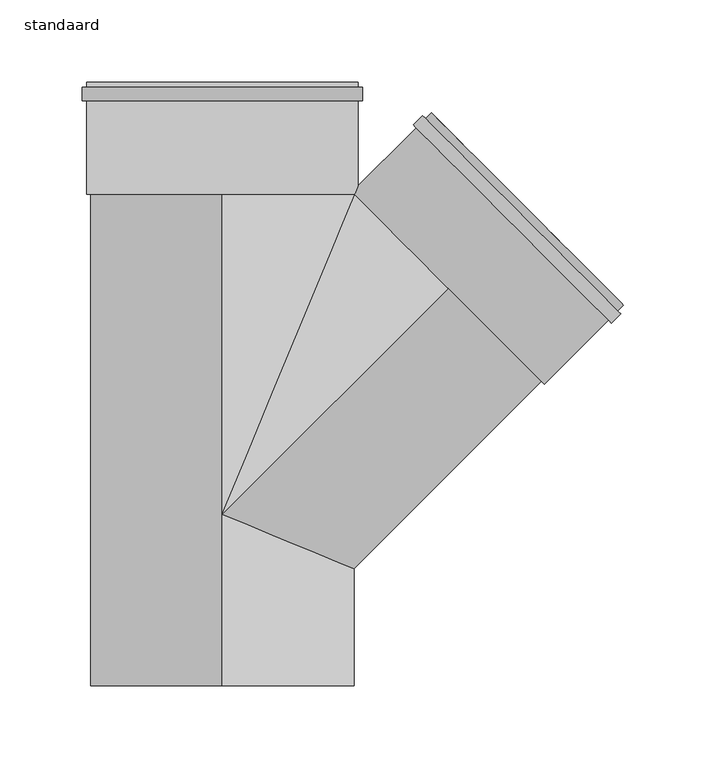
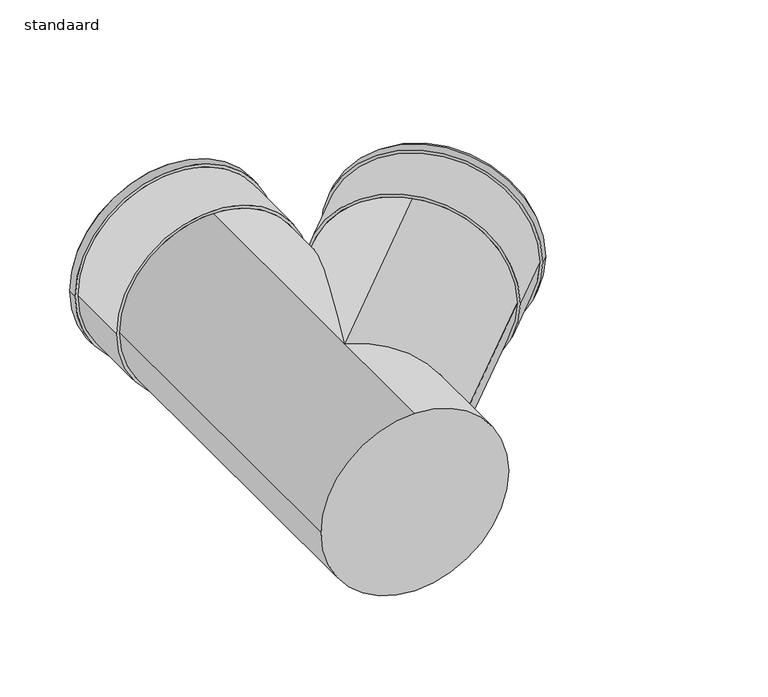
"""IFC4 building model written with IfcOpenShell, lengths in millimetres: pipe fitting geometry, 400_52_Dyka_PP_DykaStil_T-stuk_MMS : standaard."""

from ifc_helpers import new_model, si_unit, point, frame, origin, origin_2d, place, context, project, spatial, polyline, circle_curve, ellipse_curve, trimmed, segment, composite_curve, outline, extrude, source, transform, mapped, element, save
from ifc_brep_helpers import plane_surface, cylinder_surface, revolved_surface, advanced_brep


def standaard_0ab59dc6(model_context):
    return source(origin(), model_context, "Body", "SolidModel", [
        advanced_brep(
        [(-85.0, 259.0, 0.0), (85.0, 259.0, 0.0), (82.5, 259.0, 0.0), (-82.5, 259.0, 0.0), (-85.0, 251.0, 0.0), (85.0, 251.0, 0.0), (-82.5, 251.0, 0.0), (82.5, 251.0, 0.0), (82.5, 194.0, 0.0), (-82.5, 194.0, 0.0), (80.0, 194.0, 0.0), (-80.0, 194.0, 0.0), (82.5, 262.0, 0.0), (-82.5, 262.0, 0.0), (80.0, 262.0, 0.0), (-80.0, 262.0, 0.0)],
        [
            (0, 1, circle_curve(frame((0.0, 259.0, 0.0), z_axis=(0.0, 1.0, 0.0), x_axis=(1.0, 0.0, 0.0)), 85.0)),
            (1, 0, circle_curve(frame((0.0, 259.0, 0.0), z_axis=(0.0, 1.0, 0.0), x_axis=(1.0, 0.0, 0.0)), 85.0)),
            (2, 3, circle_curve(frame((0.0, 259.0, 0.0), z_axis=(0.0, -1.0, 0.0), x_axis=(-1.0, 0.0, 0.0)), 82.5)),
            (3, 2, circle_curve(frame((0.0, 259.0, 0.0), z_axis=(0.0, -1.0, 0.0), x_axis=(-1.0, 0.0, 0.0)), 82.5)),
            (4, 5, circle_curve(frame((0.0, 251.0, 0.0), z_axis=(0.0, -1.0, 0.0), x_axis=(1.0, 0.0, 0.0)), 85.0)),
            (5, 4, circle_curve(frame((0.0, 251.0, 0.0), z_axis=(0.0, -1.0, 0.0), x_axis=(1.0, 0.0, 0.0)), 85.0)),
            (6, 7, circle_curve(frame((0.0, 251.0, 0.0), z_axis=(0.0, 1.0, 0.0), x_axis=(-1.0, 0.0, 0.0)), 82.5)),
            (7, 6, circle_curve(frame((0.0, 251.0, 0.0), z_axis=(0.0, 1.0, 0.0), x_axis=(-1.0, 0.0, 0.0)), 82.5)),
            (0, 4),
            (5, 1),
            (8, 9, circle_curve(frame((0.0, 194.0, 0.0), z_axis=(0.0, -1.0, 0.0), x_axis=(-1.0, 0.0, 0.0)), 82.5)),
            (9, 8, circle_curve(frame((0.0, 194.0, 0.0), z_axis=(0.0, -1.0, 0.0), x_axis=(-1.0, 0.0, 0.0)), 82.5)),
            (10, 11, circle_curve(frame((0.0, 194.0, 0.0), z_axis=(0.0, 1.0, 0.0), x_axis=(-1.0, 0.0, 0.0)), 80.0)),
            (11, 10, circle_curve(frame((0.0, 194.0, 0.0), z_axis=(0.0, 1.0, 0.0), x_axis=(-1.0, 0.0, 0.0)), 80.0)),
            (12, 13, circle_curve(frame((0.0, 262.0, 0.0), z_axis=(0.0, 1.0, 0.0), x_axis=(-1.0, 0.0, 0.0)), 82.5)),
            (13, 12, circle_curve(frame((0.0, 262.0, 0.0), z_axis=(0.0, 1.0, 0.0), x_axis=(-1.0, 0.0, 0.0)), 82.5)),
            (14, 15, circle_curve(frame((0.0, 262.0, 0.0), z_axis=(0.0, -1.0, 0.0), x_axis=(-1.0, 0.0, 0.0)), 80.0)),
            (15, 14, circle_curve(frame((0.0, 262.0, 0.0), z_axis=(0.0, -1.0, 0.0), x_axis=(-1.0, 0.0, 0.0)), 80.0)),
            (8, 7),
            (6, 9),
            (13, 3),
            (2, 12),
            (10, 14),
            (15, 11),
        ],
        [
            plane_surface(frame((0.0, 259.0, 0.0), z_axis=(0.0, 1.0, 0.0), x_axis=(0.0, 0.0, 1.0))),
            plane_surface(frame((0.0, 251.0, 0.0), z_axis=(0.0, -1.0, 0.0), x_axis=(0.0, 0.0, 1.0))),
            cylinder_surface(frame((0.0, 259.0, 0.0), z_axis=(0.0, 1.0, 0.0), x_axis=(1.0, 0.0, 0.0)), 85.0),
            plane_surface(frame((0.0, 194.0, 0.0), z_axis=(0.0, -1.0, 0.0), x_axis=(0.0, 0.0, 1.0))),
            plane_surface(frame((0.0, 262.0, 0.0), z_axis=(0.0, 1.0, 0.0), x_axis=(0.0, 0.0, 1.0))),
            cylinder_surface(frame((0.0, 194.0, 0.0), z_axis=(0.0, -1.0, 0.0), x_axis=(-1.0, 0.0, 0.0)), 82.5),
            revolved_surface(polyline([(-80.0, 262.0, 0.0), (-80.0, 194.0, 0.0)]), (0.0, 194.0, 0.0), (0.0, 1.0, 0.0)),
        ],
        [
            (0, [[1, 2], [3, 4]]),
            (1, [[5, 6], [7, 8]]),
            (2, [[-1, 9, -6, 10]]),
            (2, [[-2, -10, -5, -9]]),
            (3, [[11, 12], [13, 14]]),
            (4, [[15, 16], [17, 18]]),
            (5, [[-11, 19, -7, 20]]),
            (5, [[-16, 21, -3, 22]]),
            (5, [[-12, -20, -8, -19]]),
            (5, [[-15, -22, -4, -21]]),
            (6, [[-13, 23, -18, 24]]),
            (6, [[-14, -24, -17, -23]]),
        ],
    ),
        advanced_brep(
        [(121.6223664, 241.8305192, 0.0), (241.8305192, 121.6223664, 0.0), (240.0627522, 123.3901333, 0.0), (123.3901333, 240.0627522, 0.0), (115.9772398, 236.1853926, 0.0), (236.1853926, 115.9772398, 0.0), (117.7450068, 234.4176257, 0.0), (234.4176257, 117.7450068, 0.0), (195.515025, 78.8424061, 0.0), (78.8424061, 195.515025, 0.0), (193.747258, 80.6101731, 0.0), (80.6101731, 193.747258, 0.0), (243.5982861, 126.9256672, 0.0), (126.9256672, 243.5982861, 0.0), (241.8305192, 128.6934342, 0.0), (128.6934342, 241.8305192, 0.0)],
        [
            (0, 1, circle_curve(frame((181.7264428, 181.7264428, 0.0), z_axis=(0.7071067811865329, 0.7071067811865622, 0.0), x_axis=(0.7071067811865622, -0.7071067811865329, 0.0)), 85.0)),
            (1, 0, circle_curve(frame((181.7264428, 181.7264428, 0.0), z_axis=(0.7071067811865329, 0.7071067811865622, 0.0), x_axis=(0.7071067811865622, -0.7071067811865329, 0.0)), 85.0)),
            (2, 3, circle_curve(frame((181.7264428, 181.7264428, 0.0), z_axis=(-0.707106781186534, -0.7071067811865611, 0.0), x_axis=(-0.7071067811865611, 0.707106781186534, 0.0)), 82.5)),
            (3, 2, circle_curve(frame((181.7264428, 181.7264428, 0.0), z_axis=(-0.707106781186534, -0.7071067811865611, 0.0), x_axis=(-0.7071067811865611, 0.707106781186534, 0.0)), 82.5)),
            (4, 5, circle_curve(frame((176.0813162, 176.0813162, 0.0), z_axis=(-0.7071067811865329, -0.7071067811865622, 0.0), x_axis=(0.7071067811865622, -0.7071067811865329, 0.0)), 85.0)),
            (5, 4, circle_curve(frame((176.0813162, 176.0813162, 0.0), z_axis=(-0.7071067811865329, -0.7071067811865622, 0.0), x_axis=(0.7071067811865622, -0.7071067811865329, 0.0)), 85.0)),
            (6, 7, circle_curve(frame((176.0813162, 176.0813162, 0.0), z_axis=(0.707106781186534, 0.7071067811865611, 0.0), x_axis=(-0.7071067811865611, 0.707106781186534, 0.0)), 82.5)),
            (7, 6, circle_curve(frame((176.0813162, 176.0813162, 0.0), z_axis=(0.707106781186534, 0.7071067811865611, 0.0), x_axis=(-0.7071067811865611, 0.707106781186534, 0.0)), 82.5)),
            (0, 4),
            (5, 1),
            (8, 9, circle_curve(frame((137.1787156, 137.1787156, 0.0), z_axis=(-0.707106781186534, -0.7071067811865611, 0.0), x_axis=(-0.7071067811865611, 0.707106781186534, 0.0)), 82.5)),
            (9, 8, circle_curve(frame((137.1787156, 137.1787156, 0.0), z_axis=(-0.707106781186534, -0.7071067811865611, 0.0), x_axis=(-0.7071067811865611, 0.707106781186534, 0.0)), 82.5)),
            (10, 11, circle_curve(frame((137.1787156, 137.1787156, 0.0), z_axis=(0.707106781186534, 0.7071067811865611, 0.0), x_axis=(-0.7071067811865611, 0.707106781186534, 0.0)), 80.0)),
            (11, 10, circle_curve(frame((137.1787156, 137.1787156, 0.0), z_axis=(0.707106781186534, 0.7071067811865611, 0.0), x_axis=(-0.7071067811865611, 0.707106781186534, 0.0)), 80.0)),
            (12, 13, circle_curve(frame((185.2619767, 185.2619767, 0.0), z_axis=(0.707106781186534, 0.7071067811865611, 0.0), x_axis=(-0.7071067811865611, 0.707106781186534, 0.0)), 82.5)),
            (13, 12, circle_curve(frame((185.2619767, 185.2619767, 0.0), z_axis=(0.707106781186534, 0.7071067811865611, 0.0), x_axis=(-0.7071067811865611, 0.707106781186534, 0.0)), 82.5)),
            (14, 15, circle_curve(frame((185.2619767, 185.2619767, 0.0), z_axis=(-0.707106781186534, -0.7071067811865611, 0.0), x_axis=(-0.7071067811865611, 0.707106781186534, 0.0)), 80.0)),
            (15, 14, circle_curve(frame((185.2619767, 185.2619767, 0.0), z_axis=(-0.707106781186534, -0.7071067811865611, 0.0), x_axis=(-0.7071067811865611, 0.707106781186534, 0.0)), 80.0)),
            (10, 14),
            (15, 11),
            (8, 7),
            (6, 9),
            (13, 3),
            (2, 12),
        ],
        [
            plane_surface(frame((181.7264428, 181.7264428, 0.0), z_axis=(0.7071067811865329, 0.7071067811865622, 0.0), x_axis=(0.0, 0.0, 1.0))),
            plane_surface(frame((176.0813162, 176.0813162, 0.0), z_axis=(-0.7071067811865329, -0.7071067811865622, 0.0), x_axis=(0.0, 0.0, 1.0))),
            cylinder_surface(frame((181.7264428, 181.7264428, 0.0), z_axis=(0.7071067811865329, 0.7071067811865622, 0.0), x_axis=(0.7071067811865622, -0.7071067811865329, 0.0)), 85.0),
            plane_surface(frame((137.1787156, 137.1787156, 0.0), z_axis=(-0.7071067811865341, -0.707106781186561, 0.0), x_axis=(0.0, 0.0, 1.0))),
            plane_surface(frame((185.2619767, 185.2619767, 0.0), z_axis=(0.7071067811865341, 0.707106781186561, 0.0), x_axis=(0.0, 0.0, 1.0))),
            revolved_surface(polyline([(128.69343420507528, 241.83051919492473, 0.0), (80.61017305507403, 193.74725804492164, 0.0)]), (137.1787156, 137.1787156, 0.0), (0.707106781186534, 0.7071067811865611, 0.0)),
            cylinder_surface(frame((137.1787156, 137.1787156, 0.0), z_axis=(-0.707106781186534, -0.7071067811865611, 0.0), x_axis=(-0.7071067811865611, 0.707106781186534, 0.0)), 82.5),
        ],
        [
            (0, [[1, 2], [3, 4]]),
            (1, [[5, 6], [7, 8]]),
            (2, [[-1, 9, -6, 10]]),
            (2, [[-2, -10, -5, -9]]),
            (3, [[11, 12], [13, 14]]),
            (4, [[15, 16], [17, 18]]),
            (5, [[-13, 19, -18, 20]]),
            (5, [[-14, -20, -17, -19]]),
            (6, [[-11, 21, -7, 22]]),
            (6, [[-16, 23, -3, 24]]),
            (6, [[-12, -22, -8, -21]]),
            (6, [[-15, -24, -4, -23]]),
        ],
    ),
        advanced_brep(
        [(80.0, 193.137085, 0.0), (80.0, -33.137085, 0.0), (0.0, 0.0, 80.0), (0.0, 0.0, -80.0), (137.1787156, 137.1787156, 80.0), (193.747258, 80.6101731, 0.0), (137.1787156, 137.1787156, -80.0), (80.6101731, 193.747258, 0.0)],
        [
            (0, 1),
            (1, 2, ellipse_curve(frame((0.0, 0.0, 0.0), z_axis=(-0.38268343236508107, -0.9238795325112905, 0.0), x_axis=(-0.9238795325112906, 0.3826834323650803, 0.0)), 86.591376, 80.0)),
            (2, 0, ellipse_curve(frame((0.0, 0.0, 0.0), z_axis=(-0.9238795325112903, 0.3826834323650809, 0.0), x_axis=(0.3826834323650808, 0.9238795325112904, 0.0)), 209.0500744, 80.0)),
            (0, 3, ellipse_curve(frame((0.0, 0.0, 0.0), z_axis=(-0.9238795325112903, 0.3826834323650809, 0.0), x_axis=(0.3826834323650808, 0.9238795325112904, 0.0)), 209.0500744, 80.0)),
            (3, 1, ellipse_curve(frame((0.0, 0.0, 0.0), z_axis=(-0.38268343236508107, -0.9238795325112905, 0.0), x_axis=(-0.9238795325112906, 0.3826834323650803, 0.0)), 86.591376, 80.0)),
            (4, 5, circle_curve(frame((137.1787156, 137.1787156, 0.0), z_axis=(0.7071067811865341, 0.707106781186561, 0.0), x_axis=(-0.707106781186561, 0.7071067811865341, 0.0)), 80.0)),
            (5, 6, circle_curve(frame((137.1787156, 137.1787156, 0.0), z_axis=(0.7071067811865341, 0.707106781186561, 0.0), x_axis=(-0.707106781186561, 0.7071067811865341, 0.0)), 80.0)),
            (6, 7, circle_curve(frame((137.1787156, 137.1787156, 0.0), z_axis=(0.7071067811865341, 0.707106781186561, 0.0), x_axis=(-0.707106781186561, 0.7071067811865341, 0.0)), 80.0)),
            (7, 4, circle_curve(frame((137.1787156, 137.1787156, 0.0), z_axis=(0.7071067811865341, 0.707106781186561, 0.0), x_axis=(-0.707106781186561, 0.7071067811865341, 0.0)), 80.0)),
            (7, 0),
            (2, 4),
            (6, 3),
            (5, 1),
        ],
        [
            revolved_surface(polyline([(80.0, 193.13708500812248, 0.0), (80.0, -193.13708500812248, 0.0)]), (0.0, 262.0, 0.0), (0.0, 1.0, 0.0)),
            plane_surface(frame((137.1787156, 137.1787156, 0.0), z_axis=(0.7071067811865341, 0.707106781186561, 0.0), x_axis=(0.0, 0.0, 1.0))),
            cylinder_surface(frame((0.0, 0.0, 0.0), z_axis=(-0.7071067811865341, -0.707106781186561, 0.0), x_axis=(-0.707106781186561, 0.7071067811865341, 0.0)), 80.0),
        ],
        [
            (0, [[1, 2, 3]]),
            (0, [[-1, 4, 5]]),
            (1, [[6, 7, 8, 9]]),
            (2, [[-9, 10, -3, 11]]),
            (2, [[-8, 12, -4, -10]]),
            (2, [[-7, 13, -5, -12]]),
            (2, [[-6, -11, -2, -13]]),
        ],
    ),
        extrude(outline(composite_curve([segment(trimmed(circle_curve(origin_2d(), 80.0), [point((80.0, 0.0))], [point((0.0, -80.0))], False, "CARTESIAN"), True, "CONTINUOUS"), segment(trimmed(circle_curve(origin_2d(), 80.0), [point((0.0, -80.0))], [point((-80.0, 0.0))], False, "CARTESIAN"), True, "CONTINUOUS"), segment(trimmed(circle_curve(origin_2d(), 80.0), [point((-80.0, 0.0))], [point((0.0, 80.0))], False, "CARTESIAN"), True, "CONTINUOUS"), segment(trimmed(circle_curve(origin_2d(), 80.0), [point((0.0, 80.0))], [point((80.0, 0.0))], False, "CARTESIAN"), True, "CONTINUOUS")], self_intersect=False)), frame((0.0, -104.0, 0.0), z_axis=(0.0, 1.0, 0.0), x_axis=(0.0, 0.0, 1.0)), (0.0, 0.0, 1.0), 298.0),
    ])


if __name__ == "__main__":
    model = new_model("IFC4")
    model_context = context("Model", 3, world=origin())
    ifc_project = project(units=[si_unit("LENGTHUNIT", "METRE", prefix="MILLI")], contexts=[model_context])
    site = spatial("IfcSite", under=ifc_project)
    building = spatial("IfcBuilding", under=site)
    placement = place(None, origin())
    standaard_shape = standaard_0ab59dc6(model_context)
    element("IfcPipeFitting", 1, ObjectType="400_52_Dyka_PP_DykaStil_T-stuk_MMS : standaard", at=placement, inside=building, context=model_context, shape_type="MappedRepresentation", body=[
        mapped(standaard_shape, transform((0.0, 0.0, 0.0), x_axis=(1.0, 0.0, 0.0), y_axis=(0.0, 1.0, 0.0), z_axis=(0.0, 0.0, 1.0))),
    ])
    save(model, "model.ifc")
